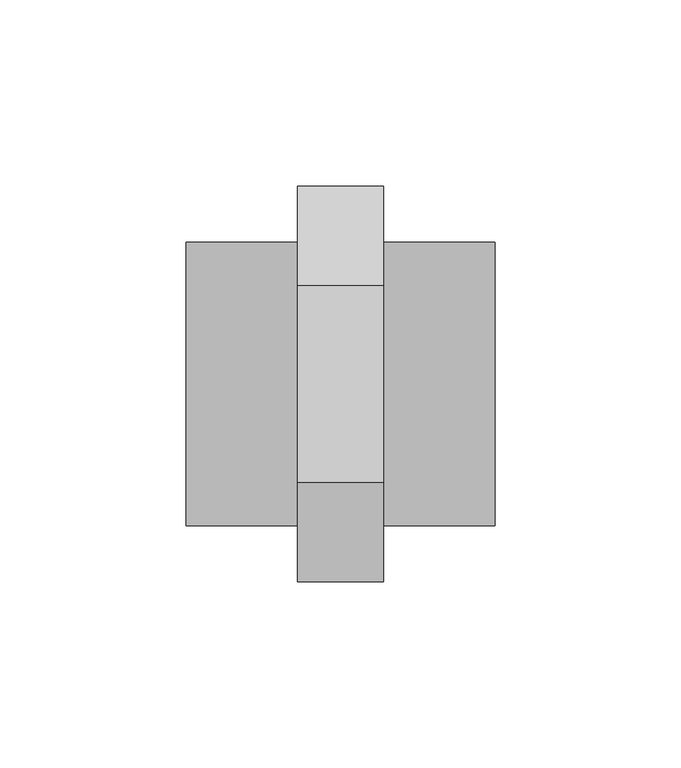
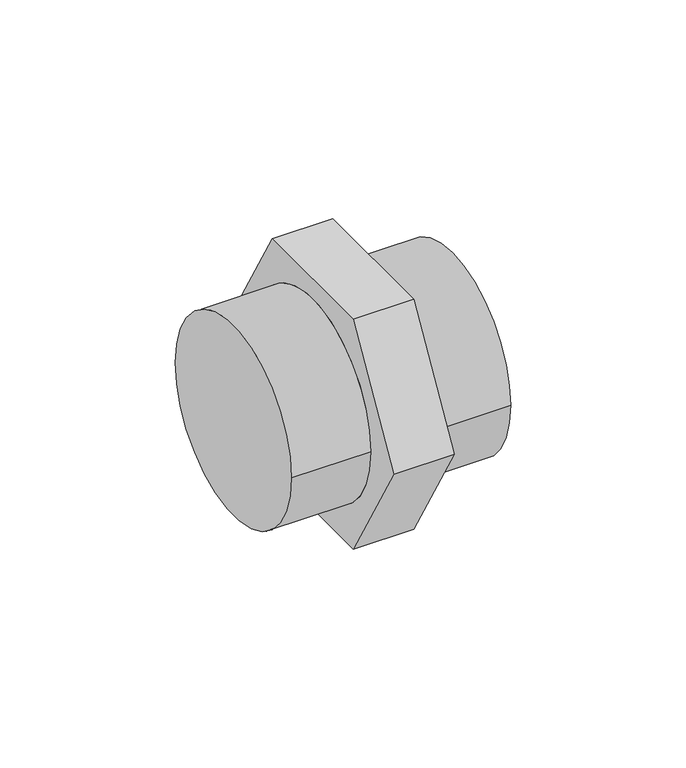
"""IFC4 building model written with IfcOpenShell, lengths in millimetres: pipe fitting geometry, 01011009 : Machones doble rosca."""

from ifc_helpers import new_model, si_unit, frame, origin, place, context, project, spatial, circle_curve, source, transform, mapped, element, save
from ifc_brep_helpers import plane_surface, cylinder_surface, advanced_brep


def pipe_fitting_82e175bb(model_context):
    return source(origin(), model_context, "Body", "AdvancedBrep", [
        advanced_brep(
        [(11.5, -26.5581124, 46.0), (11.5, -53.1162248, 0.0), (11.5, -26.5581124, -46.0), (11.5, 26.5581124, -46.0), (11.5, 53.1162248, 0.0), (11.5, 26.5581124, 46.0), (11.5, -38.1, 0.0), (11.5, 38.1, 0.0), (-11.5, -26.5581124, 46.0), (-11.5, 26.5581124, 46.0), (-11.5, 53.1162248, 0.0), (-11.5, 26.5581124, -46.0), (-11.5, -26.5581124, -46.0), (-11.5, -53.1162248, 0.0), (-11.5, 38.1, 0.0), (-11.5, -38.1, 0.0), (-41.5, -38.1, 0.0), (-41.5, 38.1, 0.0), (41.5, -38.1, 0.0), (41.5, 38.1, 0.0)],
        [
            (0, 1),
            (1, 2),
            (2, 3),
            (3, 4),
            (4, 5),
            (5, 0),
            (6, 7, circle_curve(frame((11.5, 0.0, 0.0), z_axis=(-1.0, 0.0, 0.0), x_axis=(0.0, 1.0, 0.0)), 38.1)),
            (7, 6, circle_curve(frame((11.5, 0.0, 0.0), z_axis=(-1.0, 0.0, 0.0), x_axis=(0.0, 1.0, 0.0)), 38.1)),
            (8, 9),
            (9, 10),
            (10, 11),
            (11, 12),
            (12, 13),
            (13, 8),
            (14, 15, circle_curve(frame((-11.5, 0.0, 0.0), z_axis=(1.0, 0.0, 0.0), x_axis=(0.0, 1.0, 0.0)), 38.1)),
            (15, 14, circle_curve(frame((-11.5, 0.0, 0.0), z_axis=(1.0, 0.0, 0.0), x_axis=(0.0, 1.0, 0.0)), 38.1)),
            (0, 8),
            (13, 1),
            (12, 2),
            (11, 3),
            (10, 4),
            (9, 5),
            (16, 17, circle_curve(frame((-41.5, 0.0, 0.0), z_axis=(-1.0, 0.0, 0.0), x_axis=(0.0, 1.0, 0.0)), 38.1)),
            (17, 16, circle_curve(frame((-41.5, 0.0, 0.0), z_axis=(-1.0, 0.0, 0.0), x_axis=(0.0, 1.0, 0.0)), 38.1)),
            (18, 19, circle_curve(frame((41.5, 0.0, 0.0), z_axis=(1.0, 0.0, 0.0), x_axis=(0.0, 1.0, 0.0)), 38.1)),
            (19, 18, circle_curve(frame((41.5, 0.0, 0.0), z_axis=(1.0, 0.0, 0.0), x_axis=(0.0, 1.0, 0.0)), 38.1)),
            (16, 15),
            (14, 17),
            (19, 7),
            (6, 18),
        ],
        [
            plane_surface(frame((11.5, -26.5581124, 46.0), z_axis=(1.0000000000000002, 0.0, 0.0), x_axis=(0.0, -0.5000000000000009, -0.8660254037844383))),
            plane_surface(frame((-11.5, -26.5581124, 46.0), z_axis=(-1.0000000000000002, 0.0, 0.0), x_axis=(0.0, 0.5000000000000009, 0.8660254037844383))),
            plane_surface(frame((11.5, -26.5581124, 46.0), z_axis=(0.0, -0.8660254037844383, 0.5000000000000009), x_axis=(-1.0, 0.0, 0.0))),
            plane_surface(frame((11.5, -53.1162248, 0.0), z_axis=(0.0, -0.8660254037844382, -0.500000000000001), x_axis=(-1.0, 0.0, 0.0))),
            plane_surface(frame((11.5, -26.5581124, -46.0), z_axis=(0.0, 0.0, -1.0), x_axis=(-1.0, 0.0, 0.0))),
            plane_surface(frame((11.5, 26.5581124, -46.0), z_axis=(0.0, 0.8660254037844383, -0.5000000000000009), x_axis=(-1.0, 0.0, 0.0))),
            plane_surface(frame((11.5, 53.1162248, 0.0), z_axis=(0.0, 0.866025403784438, 0.500000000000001), x_axis=(-1.0, 0.0, 0.0))),
            plane_surface(frame((11.5, 26.5581124, 46.0), z_axis=(0.0, 0.0, 1.0), x_axis=(-1.0, 0.0, 0.0))),
            plane_surface(frame((-41.5, 0.0, 0.0), z_axis=(-1.0, 0.0, 0.0), x_axis=(0.0, 0.0, 1.0))),
            plane_surface(frame((41.5, 0.0, 0.0), z_axis=(1.0, 0.0, 0.0), x_axis=(0.0, 0.0, 1.0))),
            cylinder_surface(frame((-41.5, 0.0, 0.0), z_axis=(-1.0, 0.0, 0.0), x_axis=(0.0, 1.0, 0.0)), 38.1),
        ],
        [
            (0, [[1, 2, 3, 4, 5, 6], [7, 8]]),
            (1, [[9, 10, 11, 12, 13, 14], [15, 16]]),
            (2, [[-1, 17, -14, 18]]),
            (3, [[-2, -18, -13, 19]]),
            (4, [[-3, -19, -12, 20]]),
            (5, [[-4, -20, -11, 21]]),
            (6, [[-5, -21, -10, 22]]),
            (7, [[-6, -22, -9, -17]]),
            (8, [[23, 24]]),
            (9, [[25, 26]]),
            (10, [[-23, 27, -15, 28]]),
            (10, [[-26, 29, -7, 30]]),
            (10, [[-24, -28, -16, -27]]),
            (10, [[-25, -30, -8, -29]]),
        ],
    ),
    ])


if __name__ == "__main__":
    model = new_model("IFC4")
    model_context = context("Model", 3, world=origin())
    ifc_project = project(units=[si_unit("LENGTHUNIT", "METRE", prefix="MILLI")], contexts=[model_context])
    site = spatial("IfcSite", under=ifc_project)
    building = spatial("IfcBuilding", under=site)
    placement = place(None, origin())
    pipe_fitting_shape = pipe_fitting_82e175bb(model_context)
    element("IfcPipeFitting", 1, ObjectType="01011009 : Machones doble rosca", at=placement, inside=building, context=model_context, shape_type="MappedRepresentation", body=[
        mapped(pipe_fitting_shape, transform((0.0, 0.0, 0.0), x_axis=(1.0, 0.0, 0.0), y_axis=(0.0, 1.0, 0.0), z_axis=(0.0, 0.0, 1.0))),
    ])
    save(model, "model.ifc")
